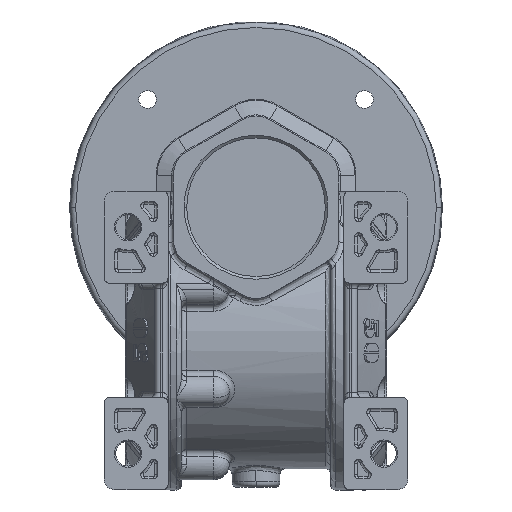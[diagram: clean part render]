
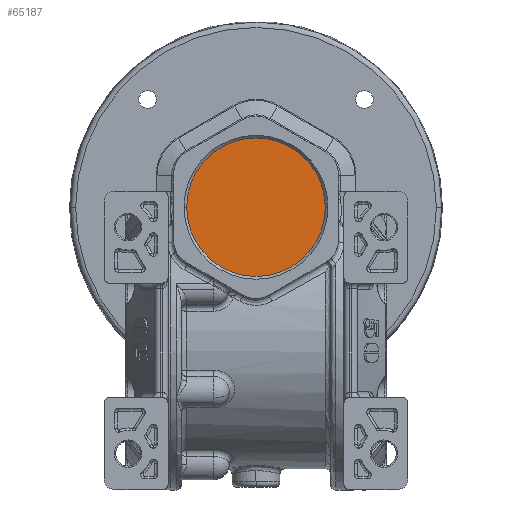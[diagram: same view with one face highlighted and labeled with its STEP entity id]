
A CAD part, top view. The second image highlights one B-rep face of the part: STEP entity #65187.
In plain terms, the highlighted planar face has unit normal (0, 0, 1).
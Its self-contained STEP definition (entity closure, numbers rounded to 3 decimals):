
#16232 = CARTESIAN_POINT ( 'NONE',  ( -26., 0., 64. ) ) ;
#16461 = CIRCLE ( 'NONE', #16542, 26. ) ;
#16540 = DIRECTION ( 'NONE',  ( 1., 0., 0. ) ) ;
#16541 = DIRECTION ( 'NONE',  ( 0., 0., 1. ) ) ;
#16542 = AXIS2_PLACEMENT_3D ( 'NONE', #16544, #16541, #16540 ) ;
#16544 = CARTESIAN_POINT ( 'NONE',  ( 0., 0., 64. ) ) ;
#16994 = CARTESIAN_POINT ( 'NONE',  ( 26., 0., 64. ) ) ;
#47111 = VERTEX_POINT ( 'NONE', #16232 ) ;
#47279 = EDGE_CURVE ( 'NONE', #47111, #47557, #16461, .T. ) ;
#47557 = VERTEX_POINT ( 'NONE', #16994 ) ;
#65085 = EDGE_CURVE ( 'NONE', #47557, #47111, #111828, .T. ) ;
#65092 = ORIENTED_EDGE ( 'NONE', *, *, #47279, .T. ) ;
#65095 = EDGE_LOOP ( 'NONE', ( #65118, #65092 ) ) ;
#65118 = ORIENTED_EDGE ( 'NONE', *, *, #65085, .T. ) ;
#65187 = ADVANCED_FACE ( 'NONE', ( #112036 ), #112049, .T. ) ;
#109970 = DIRECTION ( 'NONE',  ( 1., 0., 0. ) ) ;
#111330 = AXIS2_PLACEMENT_3D ( 'NONE', #111598, #111846, #109970 ) ;
#111598 = CARTESIAN_POINT ( 'NONE',  ( 0., 0., 64. ) ) ;
#111828 = CIRCLE ( 'NONE', #111330, 26. ) ;
#111846 = DIRECTION ( 'NONE',  ( 0., 0., 1. ) ) ;
#112036 = FACE_OUTER_BOUND ( 'NONE', #65095, .T. ) ;
#112049 = PLANE ( 'NONE',  #112064 ) ;
#112061 = DIRECTION ( 'NONE',  ( 1., 0., 0. ) ) ;
#112062 = DIRECTION ( 'NONE',  ( 0., 0., 1. ) ) ;
#112063 = CARTESIAN_POINT ( 'NONE',  ( 0., 0., 64. ) ) ;
#112064 = AXIS2_PLACEMENT_3D ( 'NONE', #112063, #112062, #112061 ) ;
